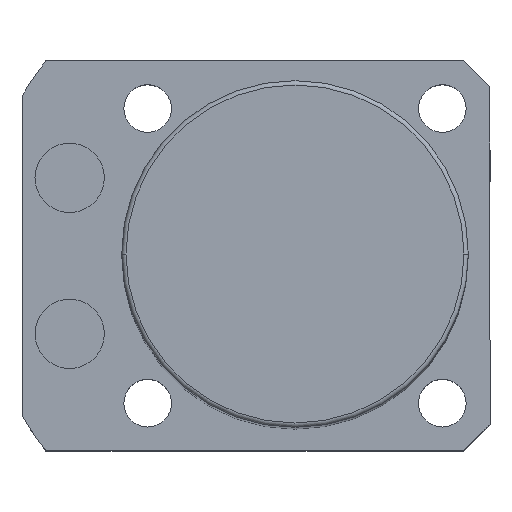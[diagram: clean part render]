
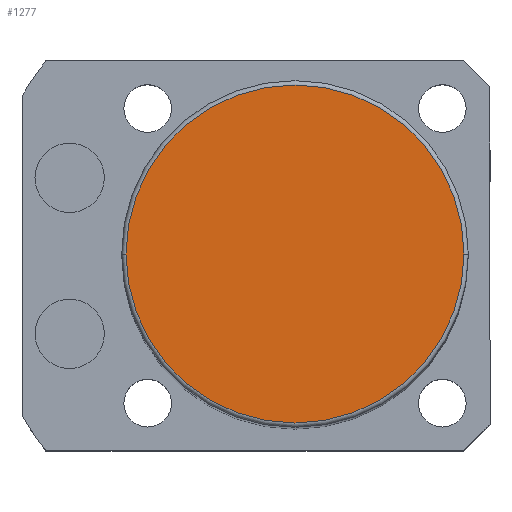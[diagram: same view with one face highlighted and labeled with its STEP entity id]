
A CAD part, top view. The second image highlights one B-rep face of the part: STEP entity #1277.
In plain terms, the highlighted planar face has unit normal (0, 0, 1).
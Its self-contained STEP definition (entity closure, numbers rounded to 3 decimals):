
#259 = EDGE_CURVE ( 'NONE', #739, #556, #318, .T. ) ;
#318 = CIRCLE ( 'NONE', #1529, 19.5 ) ;
#331 = PLANE ( 'NONE',  #1477 ) ;
#438 = CARTESIAN_POINT ( 'NONE',  ( 19.5, 0., 133.5 ) ) ;
#511 = ORIENTED_EDGE ( 'NONE', *, *, #1872, .T. ) ;
#545 = CIRCLE ( 'NONE', #1370, 19.5 ) ;
#556 = VERTEX_POINT ( 'NONE', #1954 ) ;
#703 = DIRECTION ( 'NONE',  ( 1., 0., 0. ) ) ;
#713 = DIRECTION ( 'NONE',  ( 0., 0., 1. ) ) ;
#739 = VERTEX_POINT ( 'NONE', #438 ) ;
#755 = DIRECTION ( 'NONE',  ( 1., 0., 0. ) ) ;
#882 = CARTESIAN_POINT ( 'NONE',  ( 0., 0., 133.5 ) ) ;
#924 = DIRECTION ( 'NONE',  ( 0., 0., 1. ) ) ;
#987 = FACE_OUTER_BOUND ( 'NONE', #1005, .T. ) ;
#1005 = EDGE_LOOP ( 'NONE', ( #2035, #511 ) ) ;
#1277 = ADVANCED_FACE ( 'NONE', ( #987 ), #331, .T. ) ;
#1316 = CARTESIAN_POINT ( 'NONE',  ( 0., 0., 133.5 ) ) ;
#1370 = AXIS2_PLACEMENT_3D ( 'NONE', #1316, #1675, #755 ) ;
#1477 = AXIS2_PLACEMENT_3D ( 'NONE', #882, #713, #703 ) ;
#1529 = AXIS2_PLACEMENT_3D ( 'NONE', #1834, #924, #2193 ) ;
#1675 = DIRECTION ( 'NONE',  ( 0., 0., 1. ) ) ;
#1834 = CARTESIAN_POINT ( 'NONE',  ( 0., 0., 133.5 ) ) ;
#1872 = EDGE_CURVE ( 'NONE', #556, #739, #545, .T. ) ;
#1954 = CARTESIAN_POINT ( 'NONE',  ( -19.5, 0., 133.5 ) ) ;
#2035 = ORIENTED_EDGE ( 'NONE', *, *, #259, .T. ) ;
#2193 = DIRECTION ( 'NONE',  ( 1., 0., 0. ) ) ;
